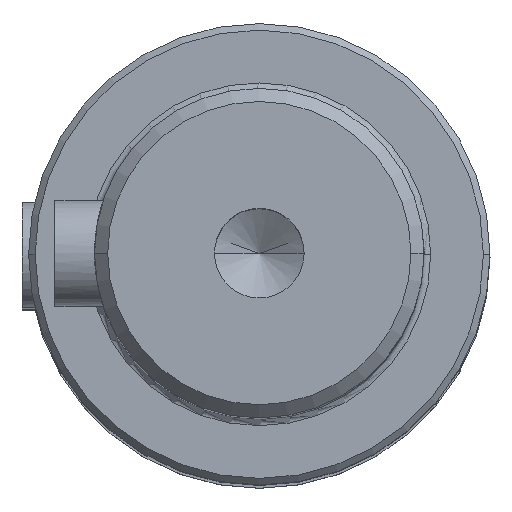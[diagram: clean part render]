
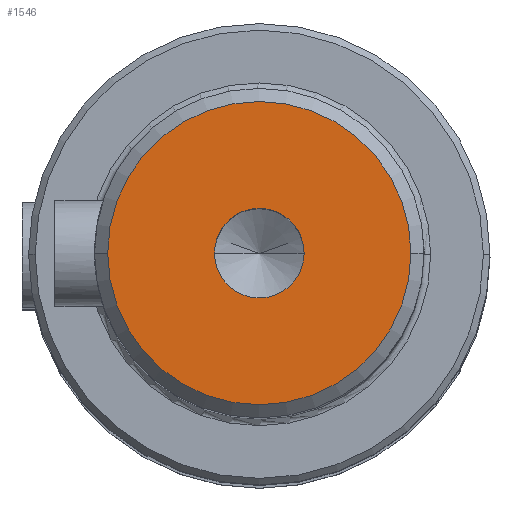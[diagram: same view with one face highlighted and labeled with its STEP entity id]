
A CAD part, top view. The second image highlights one B-rep face of the part: STEP entity #1546.
In plain terms, the highlighted planar face has unit normal (0, 0, 1).
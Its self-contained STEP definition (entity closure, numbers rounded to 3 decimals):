
#541=CARTESIAN_POINT('',(0.,0.,74.));
#542=DIRECTION('',(0.,0.,-1.));
#543=DIRECTION('',(1.,0.,0.));
#544=AXIS2_PLACEMENT_3D('',#541,#542,#543);
#546=CARTESIAN_POINT('',(0.,0.,74.));
#547=DIRECTION('',(0.,0.,-1.));
#548=DIRECTION('',(0.,-1.,0.));
#549=AXIS2_PLACEMENT_3D('',#546,#547,#548);
#551=CARTESIAN_POINT('',(0.,0.,74.));
#552=DIRECTION('',(0.,0.,-1.));
#553=DIRECTION('',(-1.,0.,0.));
#554=AXIS2_PLACEMENT_3D('',#551,#552,#553);
#556=CARTESIAN_POINT('',(0.,0.,74.));
#557=DIRECTION('',(0.,0.,-1.));
#558=DIRECTION('',(0.,1.,0.));
#559=AXIS2_PLACEMENT_3D('',#556,#557,#558);
#561=CARTESIAN_POINT('',(0.,0.,74.));
#562=DIRECTION('',(0.,0.,1.));
#563=DIRECTION('',(-1.,0.,0.));
#564=AXIS2_PLACEMENT_3D('',#561,#562,#563);
#566=CARTESIAN_POINT('',(0.,0.,74.));
#567=DIRECTION('',(0.,0.,1.));
#568=DIRECTION('',(1.,0.,0.));
#569=AXIS2_PLACEMENT_3D('',#566,#567,#568);
#878=CARTESIAN_POINT('',(0.,11.5,74.));
#879=CARTESIAN_POINT('',(11.5,0.,
74.));
#880=VERTEX_POINT('',#878);
#881=VERTEX_POINT('',#879);
#882=CARTESIAN_POINT('',(-11.5,0.,
74.));
#883=VERTEX_POINT('',#882);
#884=CARTESIAN_POINT('',(0.,-11.5,
74.));
#885=VERTEX_POINT('',#884);
#886=CARTESIAN_POINT('',(-3.4,0.,74.));
#887=CARTESIAN_POINT('',(3.4,0.,74.));
#888=VERTEX_POINT('',#886);
#889=VERTEX_POINT('',#887);
#1527=CARTESIAN_POINT('',(0.,0.,74.));
#1528=DIRECTION('',(0.,0.,-1.));
#1529=DIRECTION('',(1.,0.,0.));
#1530=AXIS2_PLACEMENT_3D('',#1527,#1528,#1529);
#1531=PLANE('',#1530);
#1533=ORIENTED_EDGE('',*,*,#1532,.T.);
#1535=ORIENTED_EDGE('',*,*,#1534,.T.);
#1536=ORIENTED_EDGE('',*,*,#1516,.T.);
#1537=ORIENTED_EDGE('',*,*,#1514,.T.);
#1538=EDGE_LOOP('',(#1533,#1535,#1536,#1537));
#1539=FACE_OUTER_BOUND('',#1538,.F.);
#1541=ORIENTED_EDGE('',*,*,#1540,.T.);
#1543=ORIENTED_EDGE('',*,*,#1542,.T.);
#1544=EDGE_LOOP('',(#1541,#1543));
#1545=FACE_BOUND('',#1544,.F.);
#1546=ADVANCED_FACE('',(#1539,#1545),#1531,.F.);
#545=CIRCLE('',#544,11.5);
#550=CIRCLE('',#549,11.5);
#555=CIRCLE('',#554,11.5);
#560=CIRCLE('',#559,11.5);
#565=CIRCLE('',#564,3.4);
#570=CIRCLE('',#569,3.4);
#1514=EDGE_CURVE('',#880,#881,#560,.T.);
#1516=EDGE_CURVE('',#883,#880,#555,.T.);
#1532=EDGE_CURVE('',#881,#885,#545,.T.);
#1534=EDGE_CURVE('',#885,#883,#550,.T.);
#1540=EDGE_CURVE('',#888,#889,#565,.T.);
#1542=EDGE_CURVE('',#889,#888,#570,.T.);
